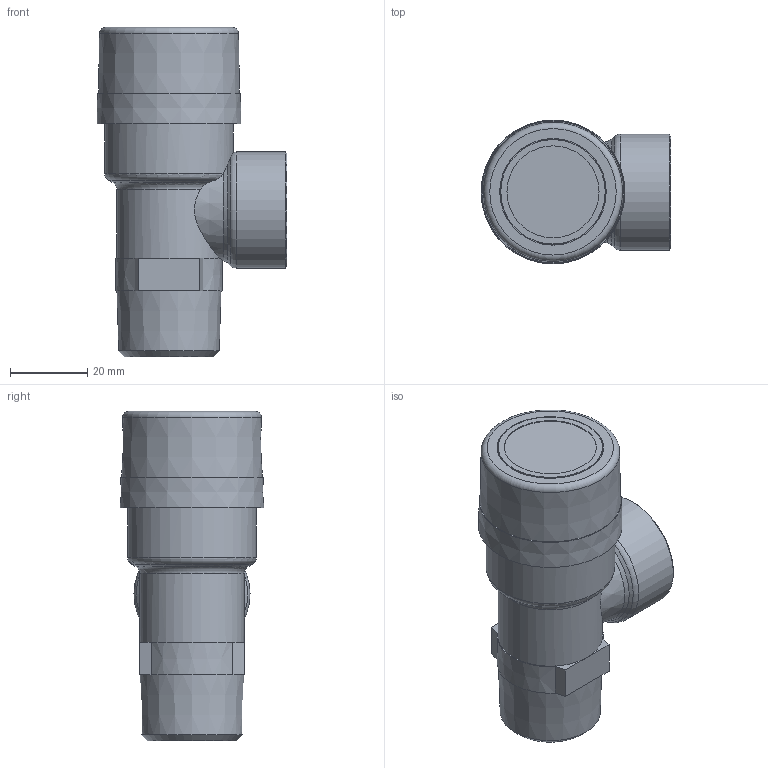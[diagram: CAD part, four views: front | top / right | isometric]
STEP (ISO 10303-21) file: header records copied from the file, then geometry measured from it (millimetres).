
FILE_DESCRIPTION(/* description */ (''),/* implementation_level */ '2;1');
FILE_NAME(/* name */ '\\DATASERVER\data\Flamco\3D-Modellen\Inventor\Prescor\Prescor B\2026_27113_B_3-4M\27113_prescor-b_3-4m_6.stp',/* time_stamp */ '2026-02-20T11:07:38+01:00',/* author */ ('kasius'),/* organization */ (''),/* preprocessor_version */ 'ST-DEVELOPER v18.1',/* originating_system */ 'Autodesk Inventor 2021',/* authorisation */ '');
FILE_SCHEMA (('AUTOMOTIVE_DESIGN { 1 0 10303 214 3 1 1 }'));
Length unit declared in the file: millimetre
Products named in the file (1): 27113_prescor-b_3-4m_6
Bounding box: 49.1 x 37.2 x 85.3 mm (x, y, z)
Volume: 59992.4 mm3; surface area: 15440.5 mm2
Topology: 1 solids, 1 shells, 54 faces, 142 edges, 100 vertices
Faces by surface type: plane 21, cone 17, cylinder 9, torus 7
Full cylindrical faces by diameter (mm): 15 x1, 20 x1, 23.8 x1, 24.12 x1, 30 x1, 33.3 x1
Entity records: 1934 total; most frequent: CARTESIAN_POINT 490, DIRECTION 302, ORIENTED_EDGE 284, EDGE_CURVE 142, AXIS2_PLACEMENT_3D 130, VERTEX_POINT 100, CIRCLE 75, EDGE_LOOP 64
